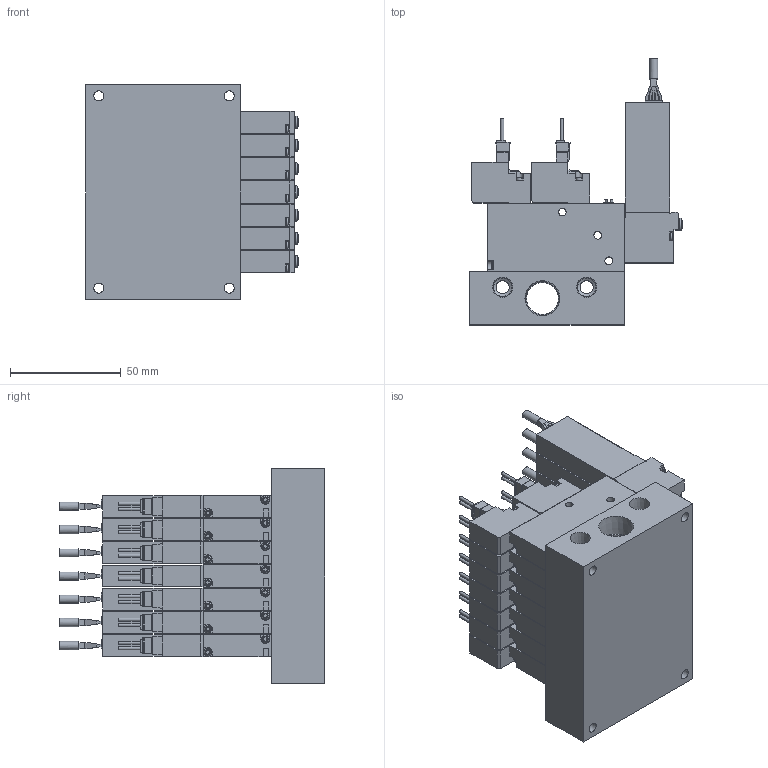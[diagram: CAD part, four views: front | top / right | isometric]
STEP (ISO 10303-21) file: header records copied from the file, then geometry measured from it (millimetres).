
FILE_DESCRIPTION(('STEP AP203'),'1');
FILE_NAME('BMPV42MV9.V9P5A(B)707.stp','2025-04-30T06:15:43',(' '),(' '),'Spatial InterOp 3D',' ',' ');
FILE_SCHEMA(('CONFIG_CONTROL_DESIGN'));
Length unit declared in the file: millimetre
Products named in the file (13): BMPV42MV9.V9P5A(B)707; UNIT-MPV42; VACUUM VALVE FUNCTION MPV42-A; VACUUM SENSOR MPV42-V9; MC4-M7
Assembly tree (29 placements, depth 2):
  BMPV42MV9.V9P5A(B)707
    UNIT-MPV42  x5
    VACUUM VALVE FUNCTION MPV42-A  x10
    VACUUM SENSOR MPV42-V9  x5
    VACUUM VALVE FUNCTION MPV42-A
    VACUUM VALVE FUNCTION MPV42-A
    UNIT-MPV42
    VACUUM SENSOR MPV42-V9
    MC4-M7
    VACUUM VALVE FUNCTION MPV42-A
    VACUUM VALVE FUNCTION MPV42-A
    UNIT-MPV42
    VACUUM SENSOR MPV42-V9
Bounding box: 96.34 x 120.3 x 97 mm (x, y, z)
Volume: 441167.2 mm3; surface area: 144279.7 mm2
Topology: 29 solids, 29 shells, 2693 faces, 7292 edges, 4825 vertices
Faces by surface type: plane 2106, cylinder 473, cone 44, sphere 35, torus 35
Full cylindrical faces by diameter (mm): 1.4 x28, 1.8 x7, 2.2 x14, 3 x28, 3.5 x77, 3.8 x7, 4.134 x14, 4.5 x4, 5 x7, 5.5 x7, 6 x2, 8.2 x4, 14.5 x1
Entity records: 33821 total; most frequent: CARTESIAN_POINT 6542, ORIENTED_EDGE 5386, DIRECTION 5365, EDGE_CURVE 2693, LINE 2097, VECTOR 2097, VERTEX_POINT 1857, AXIS2_PLACEMENT_3D 1634
